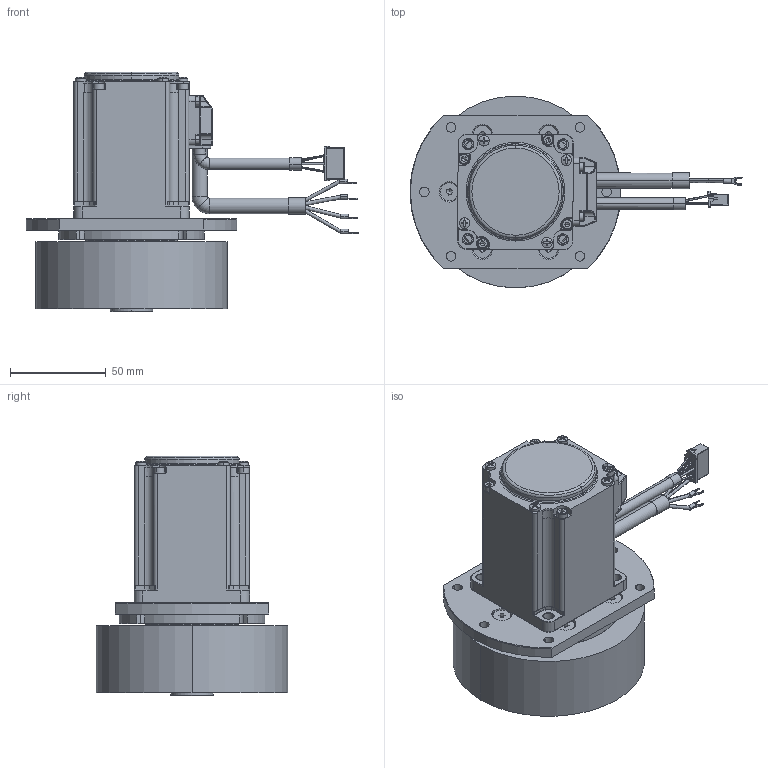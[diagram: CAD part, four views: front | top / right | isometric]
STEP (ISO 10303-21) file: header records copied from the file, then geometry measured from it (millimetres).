
FILE_DESCRIPTION((''),'2;1');
FILE_NAME('MSD100--040-30GSL-N1_ASM','2026-05-28T14:51:55',('MS28159'),(''),'CREO PARAMETRIC BY PTC INC, 2018100','CREO PARAMETRIC BY PTC INC, 2018100','');
FILE_SCHEMA(('CONFIG_CONTROL_DESIGN'));
Length unit declared in the file: millimetre
Products named in the file (35): M5-10-10_10001_1_1; 060_10_JA214-021000001_1_1; M5-10-7-_10001_1_1; M5-10-11_10001_1_1; M5-10-12_10001_1_1; M5-10-8-_10001_1_1; 4394000102411_60SV0001_1_1; M5-10-9-_10001_1_1; NONE_1_2_1_1_2; 0226--1-SOLID1_1000_1_1; 60SV04302-0400K-045-GRX_X2_FF_1_ASM; ASM0009_ASM_1_ASM_1_ASM; M5_1000_1_1_1; 100_1_1_1; 3698201102700_60SV__X2_530580_3_ASM; 3698201102700_60SV0001_ASM_1_AS_ASM; ASM0008_ASM_1_ASM_1_ASM; MSD90--040-30GL-0001_ASM_1_ASM; _1_-1-SOLID10001_1_1_2_3; 001-1-SOLID10001_1_1_2_3; _1_5016461600-1-SO0001_1_1_2_3; _1-SOLID10_1_1_2; _1_AGV-2-SOLID10001_1_1_2_3; CROSSRECESSEDCOUNT0004_1_1_2_3; CROSSRECESSEDCOUNT0005_1_1_2_3; CROSSRECESSEDCOUNT0006_1_1_2_3; _1_-1-SOLID10002_1_1_2_3; _1_AGV-1-SOLID10001_1_1_2_3; _1_AGV-3-SOLID10001_1_1_2_3; _1_--1-SOLID10001_1_1_2_3; _1_AGV-4-SOLID10001_1_1_2_3; _30001_1_1_2; 4611170005889_ASM_1_1_ASM; ASM0006_ASM; MSD100--040-30GSL-N1_ASM
Assembly tree (34 placements, depth 6):
  MSD100--040-30GSL-N1_ASM
    MSD90--040-30GL-0001_ASM_1_ASM
      ASM0008_ASM_1_ASM_1_ASM
        ASM0009_ASM_1_ASM_1_ASM
          60SV04302-0400K-045-GRX_X2_FF_1_ASM
            M5-10-10_10001_1_1
            060_10_JA214-021000001_1_1
            M5-10-7-_10001_1_1
            M5-10-11_10001_1_1
            M5-10-12_10001_1_1
            M5-10-8-_10001_1_1
            4394000102411_60SV0001_1_1
            M5-10-9-_10001_1_1
            NONE_1_2_1_1_2
            0226--1-SOLID1_1000_1_1
        3698201102700_60SV0001_ASM_1_AS_ASM
          3698201102700_60SV__X2_530580_3_ASM
            M5_1000_1_1_1
            100_1_1_1
    ASM0006_ASM
      4611170005889_ASM_1_1_ASM
        _1_-1-SOLID10001_1_1_2_3
        001-1-SOLID10001_1_1_2_3
        _1_5016461600-1-SO0001_1_1_2_3
        _1-SOLID10_1_1_2
        _1_AGV-2-SOLID10001_1_1_2_3
        CROSSRECESSEDCOUNT0004_1_1_2_3
        CROSSRECESSEDCOUNT0005_1_1_2_3
        CROSSRECESSEDCOUNT0006_1_1_2_3
        _1_-1-SOLID10002_1_1_2_3
        _1_AGV-1-SOLID10001_1_1_2_3
        _1_AGV-3-SOLID10001_1_1_2_3
        _1_--1-SOLID10001_1_1_2_3
        _1_AGV-4-SOLID10001_1_1_2_3
        _30001_1_1_2
Bounding box: 173.1 x 100 x 125 mm (x, y, z)
Volume: 561901 mm3; surface area: 147834.3 mm2
Topology: 26 solids, 58 shells, 2319 faces, 5878 edges, 3697 vertices
Faces by surface type: plane 1010, cylinder 755, torus 261, cone 191, sphere 54, bspline 30, extrusion 18
Entity records: 79626 total; most frequent: CARTESIAN_POINT 21861, DIRECTION 12647, ORIENTED_EDGE 11564, EDGE_CURVE 5782, AXIS2_PLACEMENT_3D 4856, VERTEX_POINT 3697, VECTOR 2935, LINE 2917
